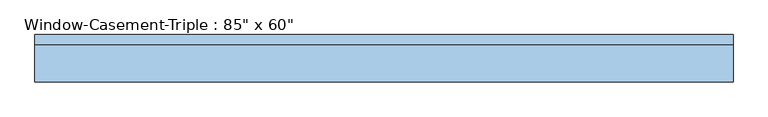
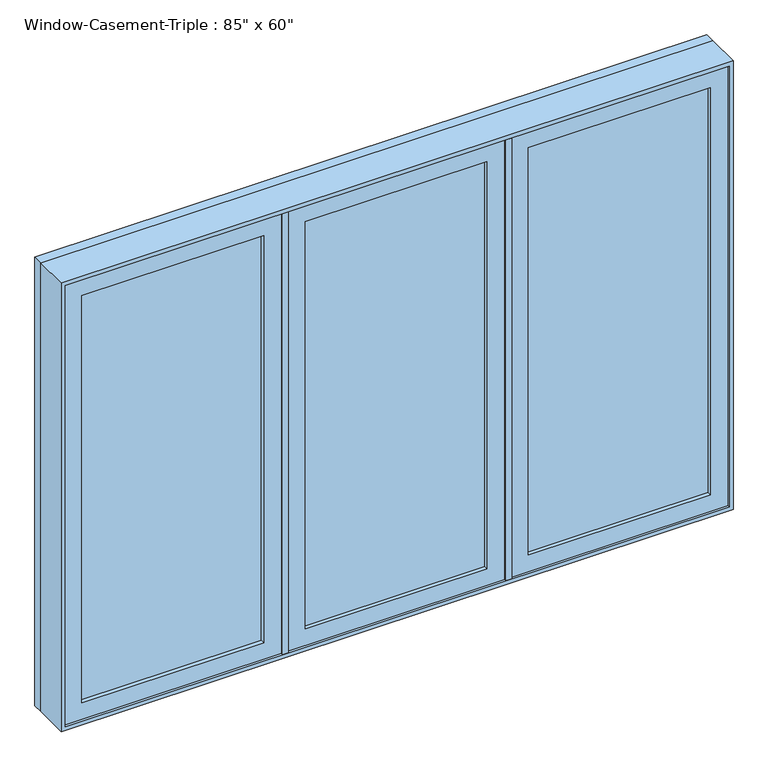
"""IFC4 building model written with IfcOpenShell, lengths in millimetres: window geometry."""

from ifc_helpers import new_model, si_unit, frame, origin, place, context, project, spatial, polyline, outline, extrude, faceted_brep, source, transform, mapped, element, save


def window_b182885c(model_context):
    return source(origin(), model_context, "Body", "SolidModel", [
        faceted_brep([(1047.75, -31.75, 2406.65), (-1047.75, -31.75, 2406.65), (-1047.75, 31.75, 2406.65), (1047.75, 31.75, 2406.65), (1066.8, -82.55, 2425.7), (-1066.8, -82.55, 2425.7), (-1066.8, -31.75, 2425.7), (1066.8, -31.75, 2425.7), (1079.5, 31.75, 2438.4), (-1079.5, 31.75, 2438.4), (-1079.5, -82.55, 2438.4), (1079.5, -82.55, 2438.4), (-1047.75, -31.75, 946.15), (-1047.75, 31.75, 946.15), (-1066.8, -82.55, 927.1), (-1066.8, -31.75, 927.1), (-1079.5, 31.75, 914.4), (-1079.5, -82.55, 914.4), (1047.75, -31.75, 946.15), (1047.75, 31.75, 946.15), (1066.8, -82.55, 927.1), (1066.8, -31.75, 927.1), (1079.5, 31.75, 914.4), (1079.5, -82.55, 914.4)], [[[0, 1, 2, 3]], [[4, 5, 6, 7]], [[8, 9, 10, 11]], [[1, 12, 13, 2]], [[5, 14, 15, 6]], [[9, 16, 17, 10]], [[12, 18, 19, 13]], [[14, 20, 21, 15]], [[16, 22, 23, 17]], [[9, 8, 22, 16], [3, 2, 13, 19]], [[18, 0, 3, 19]], [[7, 6, 15, 21], [1, 0, 18, 12]], [[20, 4, 7, 21]], [[22, 8, 11, 23]], [[11, 10, 17, 23], [5, 4, 20, 14]]]),
        extrude(outline(polyline([(2438.4, -1079.5), (914.4, -1079.5), (914.4, 1079.5), (2438.4, 1079.5), (2438.4, -1079.5)]), holes=[polyline([(2419.35, 1060.45), (933.45, 1060.45), (933.45, -1060.45), (2419.35, -1060.45), (2419.35, 1060.45)])]), frame((0.0, 31.75, 0.0), z_axis=(0.0, 1.0, 0.0), x_axis=(0.0, 0.0, 1.0)), (0.0, 0.0, 1.0), 31.75),
        extrude(outline(polyline([(927.1, 368.3), (927.1, 1066.8), (2425.7, 1066.8), (2425.7, 368.3), (927.1, 368.3)]), holes=[polyline([(984.25, 1009.65), (984.25, 425.45), (2368.55, 425.45), (2368.55, 1009.65), (984.25, 1009.65)])]), frame((0.0, -76.2, 0.0), z_axis=(0.0, 1.0, 0.0), x_axis=(0.0, 0.0, 1.0)), (0.0, 0.0, 1.0), 44.45),
        extrude(outline(polyline([(2425.7, -368.3), (2425.7, -1066.8), (927.1, -1066.8), (927.1, -368.3), (2425.7, -368.3)]), holes=[polyline([(2368.55, -1009.65), (2368.55, -425.45), (984.25, -425.45), (984.25, -1009.65), (2368.55, -1009.65)])]), frame((0.0, -76.2, 0.0), z_axis=(0.0, 1.0, 0.0), x_axis=(0.0, 0.0, 1.0)), (0.0, 0.0, 1.0), 44.45),
        extrude(outline(polyline([(1009.65, -63.5), (425.45, -63.5), (425.45, -57.15), (1009.65, -57.15), (1009.65, -63.5)])), frame((0.0, 0.0, 984.25), z_axis=(0.0, 0.0, 1.0), x_axis=(1.0, 0.0, 0.0)), (0.0, 0.0, 1.0), 1384.3),
        extrude(outline(polyline([(425.45, -44.45), (1009.65, -44.45), (1009.65, -50.8), (425.45, -50.8), (425.45, -44.45)])), frame((0.0, 0.0, 984.25), z_axis=(0.0, 0.0, 1.0), x_axis=(1.0, 0.0, 0.0)), (0.0, 0.0, 1.0), 1384.3),
        extrude(outline(polyline([(-425.45, -63.5), (-1009.65, -63.5), (-1009.65, -57.15), (-425.45, -57.15), (-425.45, -63.5)])), frame((0.0, 0.0, 984.25), z_axis=(0.0, 0.0, 1.0), x_axis=(1.0, 0.0, 0.0)), (0.0, 0.0, 1.0), 1384.3),
        extrude(outline(polyline([(-1009.65, -44.45), (-425.45, -44.45), (-425.45, -50.8), (-1009.65, -50.8), (-1009.65, -44.45)])), frame((0.0, 0.0, 984.25), z_axis=(0.0, 0.0, 1.0), x_axis=(1.0, 0.0, 0.0)), (0.0, 0.0, 1.0), 1384.3),
        extrude(outline(polyline([(292.1, -63.5), (-292.1, -63.5), (-292.1, -57.15), (292.1, -57.15), (292.1, -63.5)])), frame((0.0, 0.0, 984.25), z_axis=(0.0, 0.0, 1.0), x_axis=(1.0, 0.0, 0.0)), (0.0, 0.0, 1.0), 1384.3),
        extrude(outline(polyline([(-292.1, -44.45), (292.1, -44.45), (292.1, -50.8), (-292.1, -50.8), (-292.1, -44.45)])), frame((0.0, 0.0, 984.25), z_axis=(0.0, 0.0, 1.0), x_axis=(1.0, 0.0, 0.0)), (0.0, 0.0, 1.0), 1384.3),
        extrude(outline(polyline([(927.1, -349.25), (927.1, 349.25), (2425.7, 349.25), (2425.7, -349.25), (927.1, -349.25)]), holes=[polyline([(984.25, 292.1), (984.25, -292.1), (2368.55, -292.1), (2368.55, 292.1), (984.25, 292.1)])]), frame((0.0, -76.2, 0.0), z_axis=(0.0, 1.0, 0.0), x_axis=(0.0, 0.0, 1.0)), (0.0, 0.0, 1.0), 44.45),
        faceted_brep([(-368.3, -31.75, 2425.7), (-368.3, -82.55, 2425.7), (-349.25, -82.55, 2425.7), (-349.25, -31.75, 2425.7), (-328.7398662, -31.75, 2425.7), (-328.7398662, 31.75, 2425.7), (-388.8101338, 31.75, 2425.7), (-388.8101338, -31.75, 2425.7), (-368.3, -82.55, 927.1), (-368.3, -53.975, 927.1), (-349.25, -53.975, 927.1), (-349.25, -82.55, 927.1), (-388.8101338, 31.75, 2419.35), (-388.8101338, -31.75, 2419.35), (-388.8101338, -31.75, 2406.65), (-388.8101338, 31.75, 2406.65), (-388.8101338, 31.75, 946.15), (-388.8101338, -31.75, 946.15), (-328.7398662, 31.75, 2419.35), (-328.7398662, 31.75, 2406.65), (-328.7398662, 31.75, 946.15), (-328.7398662, -31.75, 2419.35), (-328.7398662, -31.75, 2406.65), (-328.7398662, -31.75, 946.15), (-349.25, -53.975, 946.15), (-349.25, -31.75, 946.15), (-349.25, -31.75, 2406.65), (-349.25, -53.975, 2406.65), (-349.25, -53.975, 2419.35), (-349.25, -31.75, 2419.35), (-368.3, -31.75, 2419.35), (-368.3, -53.975, 2419.35), (-368.3, -53.975, 2406.65), (-368.3, -31.75, 2406.65), (-368.3, -31.75, 946.15), (-368.3, -53.975, 946.15)], [[[0, 1, 2, 3, 4, 5, 6, 7]], [[8, 9, 10, 11]], [[6, 12, 13, 7]], [[14, 15, 16, 17]], [[5, 18, 12, 6]], [[15, 19, 20, 16]], [[4, 21, 18, 5]], [[19, 22, 23, 20]], [[2, 11, 10, 24, 25, 26, 27, 28, 29, 3]], [[0, 30, 31, 32, 33, 34, 35, 9, 8, 1]], [[28, 27, 32, 31]], [[24, 10, 9, 35]], [[31, 30, 13, 12, 18, 21, 29, 28]], [[27, 26, 22, 19, 15, 14, 33, 32]], [[35, 34, 17, 16, 20, 23, 25, 24]], [[7, 13, 30, 0]], [[17, 34, 33, 14]], [[3, 29, 21, 4]], [[25, 23, 22, 26]], [[1, 8, 11, 2]]]),
        faceted_brep([(349.25, -31.75, 2425.7), (349.25, -82.55, 2425.7), (368.3, -82.55, 2425.7), (368.3, -31.75, 2425.7), (388.8101338, -31.75, 2425.7), (388.8101338, 31.75, 2425.7), (328.7398662, 31.75, 2425.7), (328.7398662, -31.75, 2425.7), (349.25, -82.55, 927.1), (349.25, -53.975, 927.1), (368.3, -53.975, 927.1), (368.3, -82.55, 927.1), (328.7398662, 31.75, 2419.35), (328.7398662, -31.75, 2419.35), (328.7398662, -31.75, 2406.65), (328.7398662, 31.75, 2406.65), (328.7398662, 31.75, 946.15), (328.7398662, -31.75, 946.15), (388.8101338, 31.75, 2419.35), (388.8101338, 31.75, 2406.65), (388.8101338, 31.75, 946.15), (388.8101338, -31.75, 2419.35), (388.8101338, -31.75, 2406.65), (388.8101338, -31.75, 946.15), (368.3, -53.975, 946.15), (368.3, -31.75, 946.15), (368.3, -31.75, 2406.65), (368.3, -53.975, 2406.65), (368.3, -53.975, 2419.35), (368.3, -31.75, 2419.35), (349.25, -31.75, 2419.35), (349.25, -53.975, 2419.35), (349.25, -53.975, 2406.65), (349.25, -31.75, 2406.65), (349.25, -31.75, 946.15), (349.25, -53.975, 946.15)], [[[0, 1, 2, 3, 4, 5, 6, 7]], [[8, 9, 10, 11]], [[6, 12, 13, 7]], [[14, 15, 16, 17]], [[5, 18, 12, 6]], [[15, 19, 20, 16]], [[4, 21, 18, 5]], [[19, 22, 23, 20]], [[2, 11, 10, 24, 25, 26, 27, 28, 29, 3]], [[0, 30, 31, 32, 33, 34, 35, 9, 8, 1]], [[28, 27, 32, 31]], [[24, 10, 9, 35]], [[31, 30, 13, 12, 18, 21, 29, 28]], [[27, 26, 22, 19, 15, 14, 33, 32]], [[35, 34, 17, 16, 20, 23, 25, 24]], [[7, 13, 30, 0]], [[17, 34, 33, 14]], [[3, 29, 21, 4]], [[25, 23, 22, 26]], [[1, 8, 11, 2]]]),
    ])


if __name__ == "__main__":
    model = new_model("IFC4")
    model_context = context("Model", 3, world=origin())
    ifc_project = project(units=[si_unit("LENGTHUNIT", "METRE", prefix="MILLI")], contexts=[model_context])
    site = spatial("IfcSite", under=ifc_project)
    building = spatial("IfcBuilding", under=site)
    placement = place(None, origin())
    window_shape = window_b182885c(model_context)
    element("IfcWindow", 1, ObjectType="Window-Casement-Triple : 85\" x 60\"", at=placement, inside=building, context=model_context, shape_type="MappedRepresentation", body=[
        mapped(window_shape, transform((0.0, 0.0, 0.0), x_axis=(1.0, 0.0, 0.0), y_axis=(0.0, 1.0, 0.0), z_axis=(0.0, 0.0, 1.0))),
    ])
    save(model, "model.ifc")
